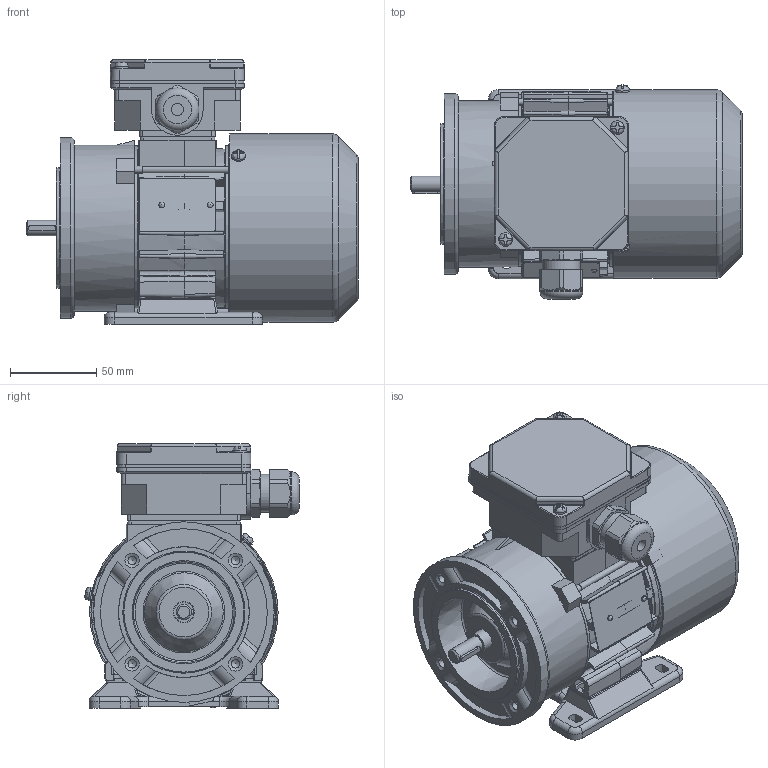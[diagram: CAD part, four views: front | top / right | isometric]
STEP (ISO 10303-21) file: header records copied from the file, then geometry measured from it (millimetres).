
FILE_DESCRIPTION( ( 'Unknown' ), '1' );
FILE_NAME( 'G:/Poczta Tk-1/STP/w.m.56/Sh56/SLh56-B1.stp', 'Unknown', ( 'K. Szlosek' ), ( 'BESEL S.A.' ), 'PSStep 17.0.49', 'Unknown', ' ' );
FILE_SCHEMA( ( 'AUTOMOTIVE_DESIGN { 1 0 10303 214 1 1 1 1 }' ) );
Length unit declared in the file: millimetre
Products named in the file (29): Assem1; K4-2320 Uszczelka nr 1 Sh71,80; K3-9987 kadłub ze stojanem Sh56-B; K3-2193 Tarcza łożyskowa P Sg56-2..; K3-9990 wał Sh56-B; K2-0860 Pokrywka skrzynki zaciskowej; Wpust A3x3x16; K3-2977 Osłona przewietrznika Sg56; K4-2820 Uszczelka nr 2 Sh71,80; Wkręt samogwintujący M4x8; Wkręt samogwintujący M4x16; K2-0879 Przewietrznik Sg56; Nitokołek A 2x6; K1-0529 Tarcza kołnierzowa B14_1 SKg56-..1; K1-0484 Łapa Sg56-.. w. robocza; K2-0859 Podstawa skrzynki 6-cio zaciskowej; Śruba ściągająca E_M4x75; Tabliczka znamionowa 32x44; Łożysko 6201; Dławnica M20x1,5
Assembly tree (44 placements, depth 2):
  Assem1
    K4-2320 Uszczelka nr 1 Sh71,80
    K3-9987 kadłub ze stojanem Sh56-B
    K3-2193 Tarcza łożyskowa P Sg56-2..
    K3-9990 wał Sh56-B
    K2-0860 Pokrywka skrzynki zaciskowej
    Wpust A3x3x16
    K3-2977 Osłona przewietrznika Sg56
    K4-2820 Uszczelka nr 2 Sh71,80
    Wkręt samogwintujący M4x8  x3
    Wkręt samogwintujący M4x16  x2
    K2-0879 Przewietrznik Sg56
    Nitokołek A 2x6  x2
    K1-0529 Tarcza kołnierzowa B14_1 SKg56-..1
    K1-0484 Łapa Sg56-.. w. robocza
    K2-0859 Podstawa skrzynki 6-cio zaciskowej
    Śruba ściągająca E_M4x75  x3
    Tabliczka znamionowa 32x44
    Łożysko 6201  x2
    Łożysko 6201  x2
    Łożysko 6201  x2
    Łożysko 6201  x2
    Łożysko 6201  x2
    Łożysko 6201  x2
    Łożysko 6201  x2
    Łożysko 6201  x2
    Łożysko 6201  x2
    Łożysko 6201  x2
    Dławnica M20x1,5
Bounding box: 193 x 124.54 x 154 mm (x, y, z)
Volume: 493557.4 mm3; surface area: 322087.6 mm2
Topology: 44 solids, 60 shells, 1877 faces, 5046 edges, 3241 vertices
Faces by surface type: plane 961, cylinder 562, torus 136, cone 108, bspline 76, sphere 34
Full cylindrical faces by diameter (mm): 2 x2, 2.4 x2, 3.242 x3, 3.7 x10, 4 x8, 4.5 x4, 4.8 x4, 4.917 x4, 5 x4, 5.8 x4, 7 x4, 8 x6, 9 x1, 10.9 x1, 11 x1, 11.5 x1, 11.8 x2, 12 x4, 12.4 x2, 15.5 x1, 16 x1, 16.1 x1, 17 x2, 18 x1, 18.376 x1, 18.38 x1, 18.52 x4, 20 x1, 22.3 x1, 24 x2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
Entity records: 78796 total; most frequent: CARTESIAN_POINT 22293, DIRECTION 8803, ORIENTED_EDGE 8680, EDGE_CURVE 4340, AXIS2_PLACEMENT_3D 3264, VERTEX_POINT 2926, LINE 2275, VECTOR 2275
